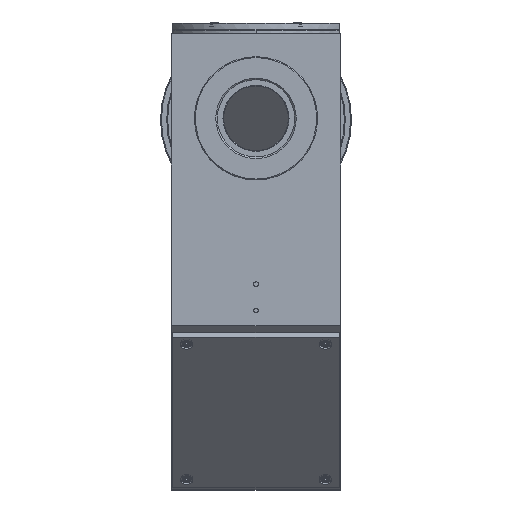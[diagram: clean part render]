
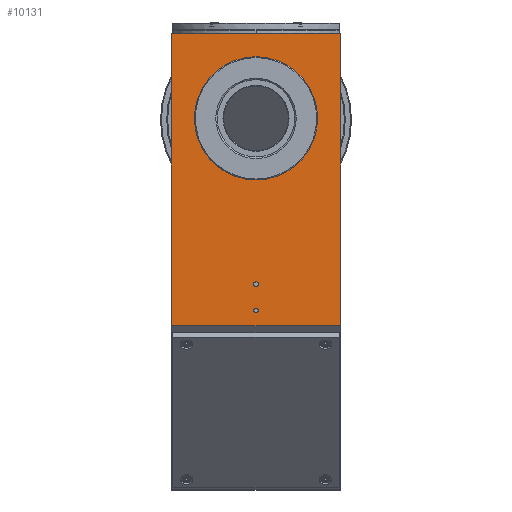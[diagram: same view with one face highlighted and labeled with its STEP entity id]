
A CAD part, top view. The second image highlights one B-rep face of the part: STEP entity #10131.
In plain terms, the highlighted planar face has unit normal (0, 0, 1).
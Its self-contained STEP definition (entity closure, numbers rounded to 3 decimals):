
#296 = DIRECTION ( 'NONE',  ( 1., 0., 0. ) ) ;
#625 = CARTESIAN_POINT ( 'NONE',  ( -27.4, -27.5, -23. ) ) ;
#1393 = LINE ( 'NONE', #7644, #6426 ) ;
#1497 = EDGE_CURVE ( 'NONE', #36026, #28606, #29168, .T. ) ;
#1813 = VERTEX_POINT ( 'NONE', #30530 ) ;
#1964 = DIRECTION ( 'NONE',  ( 0., 0., 1. ) ) ;
#2097 = EDGE_CURVE ( 'NONE', #36694, #21127, #23118, .T. ) ;
#2243 = VERTEX_POINT ( 'NONE', #625 ) ;
#2338 = EDGE_CURVE ( 'NONE', #3797, #11884, #37682, .T. ) ;
#2772 = CIRCLE ( 'NONE', #25294, 0.75 ) ;
#3039 = ORIENTED_EDGE ( 'NONE', *, *, #5251, .T. ) ;
#3341 = CIRCLE ( 'NONE', #26503, 17.7 ) ;
#3361 = DIRECTION ( 'NONE',  ( 0., 0., -1. ) ) ;
#3797 = VERTEX_POINT ( 'NONE', #12612 ) ;
#4190 = CARTESIAN_POINT ( 'NONE',  ( -27.5, 27.5, -23. ) ) ;
#4598 = FACE_BOUND ( 'NONE', #11297, .T. ) ;
#4665 = ORIENTED_EDGE ( 'NONE', *, *, #1497, .T. ) ;
#4694 = EDGE_LOOP ( 'NONE', ( #38180, #23788, #26999, #33296, #3039, #9854, #23307, #16123 ) ) ;
#4911 = LINE ( 'NONE', #21020, #30247 ) ;
#5251 = EDGE_CURVE ( 'NONE', #15862, #34091, #9285, .T. ) ;
#5618 = EDGE_CURVE ( 'NONE', #11884, #34091, #1393, .T. ) ;
#5806 = CARTESIAN_POINT ( 'NONE',  ( 0., -62.3, -23. ) ) ;
#5946 = CARTESIAN_POINT ( 'NONE',  ( 27.5, 27.5, -23. ) ) ;
#6313 = ORIENTED_EDGE ( 'NONE', *, *, #2097, .T. ) ;
#6426 = VECTOR ( 'NONE', #19742, 1000. ) ;
#6770 = DIRECTION ( 'NONE',  ( 0., 0., 1. ) ) ;
#7644 = CARTESIAN_POINT ( 'NONE',  ( 27.5, 27.5, -23. ) ) ;
#8304 = VECTOR ( 'NONE', #21044, 1000. ) ;
#8306 = DIRECTION ( 'NONE',  ( 0., -1., 0. ) ) ;
#8757 = LINE ( 'NONE', #24260, #8304 ) ;
#9016 = DIRECTION ( 'NONE',  ( 0., 0., -1. ) ) ;
#9155 = CARTESIAN_POINT ( 'NONE',  ( 0., -53.8, -23. ) ) ;
#9285 = LINE ( 'NONE', #21570, #12822 ) ;
#9454 = CIRCLE ( 'NONE', #19118, 17.7 ) ;
#9526 = CARTESIAN_POINT ( 'NONE',  ( 0., -53.05, -23. ) ) ;
#9592 = VERTEX_POINT ( 'NONE', #12575 ) ;
#9854 = ORIENTED_EDGE ( 'NONE', *, *, #5618, .F. ) ;
#9876 = AXIS2_PLACEMENT_3D ( 'NONE', #21693, #3361, #31938 ) ;
#10131 = ADVANCED_FACE ( 'NONE', ( #17088, #13664, #4598, #32574 ), #32181, .T. ) ;
#10274 = EDGE_CURVE ( 'NONE', #21127, #36694, #2772, .T. ) ;
#10872 = EDGE_LOOP ( 'NONE', ( #12048, #18351 ) ) ;
#10908 = CARTESIAN_POINT ( 'NONE',  ( 27.4, -67.243, -23. ) ) ;
#10969 = EDGE_CURVE ( 'NONE', #2243, #1813, #35876, .T. ) ;
#11297 = EDGE_LOOP ( 'NONE', ( #6313, #19732 ) ) ;
#11351 = CARTESIAN_POINT ( 'NONE',  ( 0., -62.3, -23. ) ) ;
#11549 = VERTEX_POINT ( 'NONE', #19049 ) ;
#11647 = DIRECTION ( 'NONE',  ( 0., 1., 0. ) ) ;
#11764 = DIRECTION ( 'NONE',  ( 0., -1., 0. ) ) ;
#11804 = EDGE_CURVE ( 'NONE', #28606, #36026, #19542, .T. ) ;
#11884 = VERTEX_POINT ( 'NONE', #5946 ) ;
#11928 = CARTESIAN_POINT ( 'NONE',  ( -27.4, -27.5, -23. ) ) ;
#12048 = ORIENTED_EDGE ( 'NONE', *, *, #37413, .F. ) ;
#12575 = CARTESIAN_POINT ( 'NONE',  ( -27.5, -27.5, -23. ) ) ;
#12612 = CARTESIAN_POINT ( 'NONE',  ( -27.5, 27.5, -23. ) ) ;
#12822 = VECTOR ( 'NONE', #24596, 1000. ) ;
#13053 = AXIS2_PLACEMENT_3D ( 'NONE', #4190, #1964, #35006 ) ;
#13141 = DIRECTION ( 'NONE',  ( 1., 0., 0. ) ) ;
#13203 = CARTESIAN_POINT ( 'NONE',  ( 0., -63.05, -23. ) ) ;
#13435 = VECTOR ( 'NONE', #37172, 1000. ) ;
#13664 = FACE_OUTER_BOUND ( 'NONE', #4694, .T. ) ;
#14390 = AXIS2_PLACEMENT_3D ( 'NONE', #9155, #30103, #14991 ) ;
#14991 = DIRECTION ( 'NONE',  ( 0., 1., 0. ) ) ;
#15862 = VERTEX_POINT ( 'NONE', #37163 ) ;
#16036 = VECTOR ( 'NONE', #13141, 1000. ) ;
#16123 = ORIENTED_EDGE ( 'NONE', *, *, #17831, .T. ) ;
#16566 = CARTESIAN_POINT ( 'NONE',  ( 0., -61.55, -23. ) ) ;
#16759 = CARTESIAN_POINT ( 'NONE',  ( -27.5, 27.5, -23. ) ) ;
#17088 = FACE_BOUND ( 'NONE', #10872, .T. ) ;
#17198 = DIRECTION ( 'NONE',  ( 0., 1., 0. ) ) ;
#17831 = EDGE_CURVE ( 'NONE', #3797, #9592, #8757, .T. ) ;
#17973 = AXIS2_PLACEMENT_3D ( 'NONE', #11351, #20241, #17198 ) ;
#18351 = ORIENTED_EDGE ( 'NONE', *, *, #24727, .F. ) ;
#19038 = CARTESIAN_POINT ( 'NONE',  ( 27.5, -27.5, -23. ) ) ;
#19049 = CARTESIAN_POINT ( 'NONE',  ( 17.7, 0., -23. ) ) ;
#19118 = AXIS2_PLACEMENT_3D ( 'NONE', #21107, #26938, #39005 ) ;
#19542 = CIRCLE ( 'NONE', #14390, 0.75 ) ;
#19722 = EDGE_LOOP ( 'NONE', ( #4665, #35718 ) ) ;
#19732 = ORIENTED_EDGE ( 'NONE', *, *, #10274, .T. ) ;
#19742 = DIRECTION ( 'NONE',  ( 0., -1., 0. ) ) ;
#20241 = DIRECTION ( 'NONE',  ( 0., 0., -1. ) ) ;
#20480 = EDGE_CURVE ( 'NONE', #1813, #37829, #30892, .T. ) ;
#21020 = CARTESIAN_POINT ( 'NONE',  ( 27.4, -27.5, -23. ) ) ;
#21044 = DIRECTION ( 'NONE',  ( 0., -1., 0. ) ) ;
#21107 = CARTESIAN_POINT ( 'NONE',  ( 0., 0., -23. ) ) ;
#21127 = VERTEX_POINT ( 'NONE', #13203 ) ;
#21395 = VERTEX_POINT ( 'NONE', #39543 ) ;
#21570 = CARTESIAN_POINT ( 'NONE',  ( -27.5, -27.5, -23. ) ) ;
#21691 = CARTESIAN_POINT ( 'NONE',  ( -27.5, -27.5, -23. ) ) ;
#21693 = CARTESIAN_POINT ( 'NONE',  ( 0., -53.8, -23. ) ) ;
#22898 = EDGE_CURVE ( 'NONE', #15862, #37829, #4911, .T. ) ;
#23118 = CIRCLE ( 'NONE', #17973, 0.75 ) ;
#23307 = ORIENTED_EDGE ( 'NONE', *, *, #2338, .F. ) ;
#23788 = ORIENTED_EDGE ( 'NONE', *, *, #10969, .T. ) ;
#24260 = CARTESIAN_POINT ( 'NONE',  ( -27.5, 27.5, -23. ) ) ;
#24596 = DIRECTION ( 'NONE',  ( 1., 0., 0. ) ) ;
#24727 = EDGE_CURVE ( 'NONE', #21395, #11549, #9454, .T. ) ;
#25265 = DIRECTION ( 'NONE',  ( 1., 0., 0. ) ) ;
#25294 = AXIS2_PLACEMENT_3D ( 'NONE', #5806, #9016, #11647 ) ;
#26503 = AXIS2_PLACEMENT_3D ( 'NONE', #31509, #6770, #296 ) ;
#26669 = CARTESIAN_POINT ( 'NONE',  ( 0., -54.55, -23. ) ) ;
#26938 = DIRECTION ( 'NONE',  ( 0., 0., 1. ) ) ;
#26999 = ORIENTED_EDGE ( 'NONE', *, *, #20480, .T. ) ;
#28606 = VERTEX_POINT ( 'NONE', #26669 ) ;
#29168 = CIRCLE ( 'NONE', #9876, 0.75 ) ;
#29696 = VECTOR ( 'NONE', #25265, 1000. ) ;
#30103 = DIRECTION ( 'NONE',  ( 0., 0., -1. ) ) ;
#30247 = VECTOR ( 'NONE', #11764, 1000. ) ;
#30530 = CARTESIAN_POINT ( 'NONE',  ( -27.4, -67.243, -23. ) ) ;
#30892 = LINE ( 'NONE', #31090, #29696 ) ;
#31090 = CARTESIAN_POINT ( 'NONE',  ( -20.25, -67.243, -23. ) ) ;
#31509 = CARTESIAN_POINT ( 'NONE',  ( 0., 0., -23. ) ) ;
#31938 = DIRECTION ( 'NONE',  ( 0., 1., 0. ) ) ;
#32181 = PLANE ( 'NONE',  #13053 ) ;
#32574 = FACE_BOUND ( 'NONE', #19722, .T. ) ;
#33296 = ORIENTED_EDGE ( 'NONE', *, *, #22898, .F. ) ;
#34091 = VERTEX_POINT ( 'NONE', #19038 ) ;
#34552 = LINE ( 'NONE', #21691, #13435 ) ;
#35006 = DIRECTION ( 'NONE',  ( 1., 0., 0. ) ) ;
#35214 = EDGE_CURVE ( 'NONE', #9592, #2243, #34552, .T. ) ;
#35718 = ORIENTED_EDGE ( 'NONE', *, *, #11804, .T. ) ;
#35876 = LINE ( 'NONE', #11928, #36917 ) ;
#36026 = VERTEX_POINT ( 'NONE', #9526 ) ;
#36694 = VERTEX_POINT ( 'NONE', #16566 ) ;
#36917 = VECTOR ( 'NONE', #8306, 1000. ) ;
#37163 = CARTESIAN_POINT ( 'NONE',  ( 27.4, -27.5, -23. ) ) ;
#37172 = DIRECTION ( 'NONE',  ( 1., 0., 0. ) ) ;
#37413 = EDGE_CURVE ( 'NONE', #11549, #21395, #3341, .T. ) ;
#37682 = LINE ( 'NONE', #16759, #16036 ) ;
#37829 = VERTEX_POINT ( 'NONE', #10908 ) ;
#38180 = ORIENTED_EDGE ( 'NONE', *, *, #35214, .T. ) ;
#39005 = DIRECTION ( 'NONE',  ( 1., 0., 0. ) ) ;
#39543 = CARTESIAN_POINT ( 'NONE',  ( -17.7, 0., -23. ) ) ;
